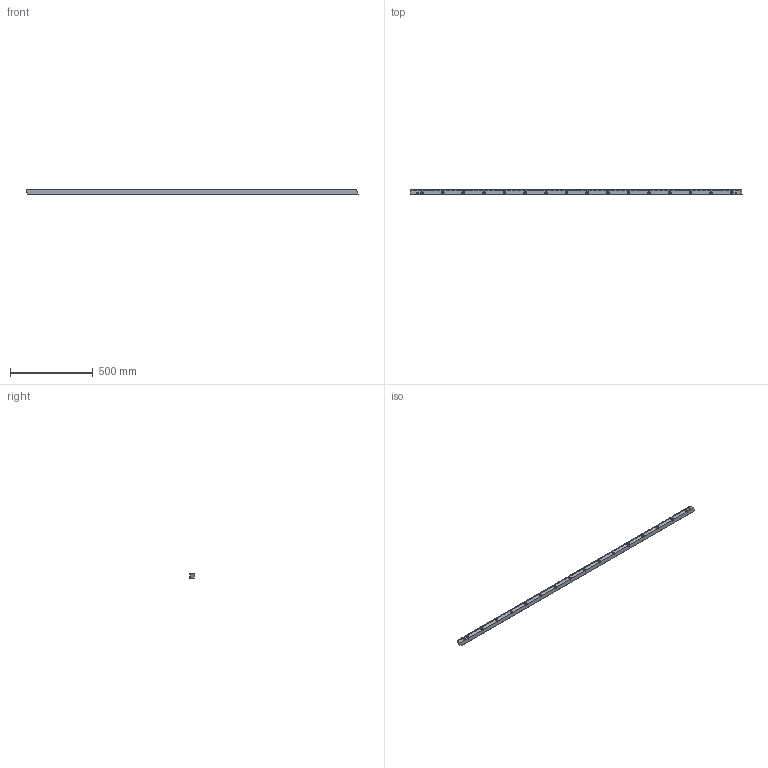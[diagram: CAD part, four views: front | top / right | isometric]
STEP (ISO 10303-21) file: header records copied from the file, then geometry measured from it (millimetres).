
FILE_DESCRIPTION (( 'STEP AP214' ), '1' );
FILE_NAME ('1HR16R030200H.STEP', '2021-12-06T11:10:31', ( '' ), ( '' ), 'SwSTEP 2.0', 'SolidWorks 2021', '' );
FILE_SCHEMA (( 'AUTOMOTIVE_DESIGN' ));
Length unit declared in the file: millimetre
Products named in the file (1): 1HR16R030200H
Bounding box: 2010.29 x 29 x 29 mm (x, y, z)
Volume: 1438025.9 mm3; surface area: 288198.9 mm2
Topology: 1 solids, 1 shells, 2159 faces, 6355 edges, 4214 vertices
Faces by surface type: plane 1223, cylinder 868, cone 68
Entity records: 70535 total; most frequent: CARTESIAN_POINT 17529, ORIENTED_EDGE 12710, DIRECTION 9279, EDGE_CURVE 6355, VECTOR 4551, LINE 4551, VERTEX_POINT 4214, AXIS2_PLACEMENT_3D 2364
